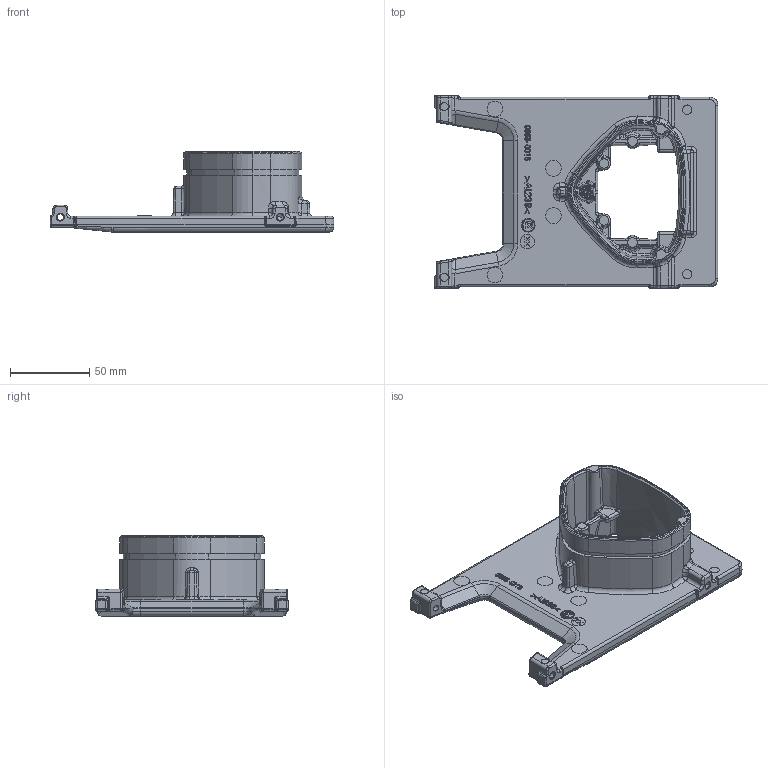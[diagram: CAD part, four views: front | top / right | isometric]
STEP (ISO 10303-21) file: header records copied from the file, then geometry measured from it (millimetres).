
FILE_DESCRIPTION(('CATIA V5 STEP 214','CAx-IF Rec.Pracs.--- Model Styling and Organization---1.4--- 2014-01-23'),'2;1');
FILE_NAME('C:\Temp\ddxv7\595603\10051347-1-0005A.stp','2023-08-18T09:15:55+00:00',('Leopold Kostal'),('Kostal GmbH'),'CATIA Version 5-6 Release 2016 SP6 HF31','CATIA V5 STEP AP214','none');
FILE_SCHEMA(('AUTOMOTIVE_DESIGN { 1 0 10303 214 1 1 1 1 }'));
Length unit declared in the file: millimetre
Products named in the file (1): 10051347-1-0005A
Bounding box: 179.5 x 121.74 x 51.3 mm (x, y, z)
Volume: 199634.8 mm3; surface area: 62569.5 mm2
Topology: 1 solids, 1 shells, 1489 faces, 3669 edges, 2183 vertices
Faces by surface type: plane 411, bspline 327, cylinder 307, extrusion 247, torus 118, cone 53, sphere 26
Entity records: 63280 total; most frequent: CARTESIAN_POINT 33921, ORIENTED_EDGE 7218, DIRECTION 3651, EDGE_CURVE 3609, VERTEX_POINT 2183, B_SPLINE_CURVE_WITH_KNOTS 1968, EDGE_LOOP 1556, VECTOR 1490
